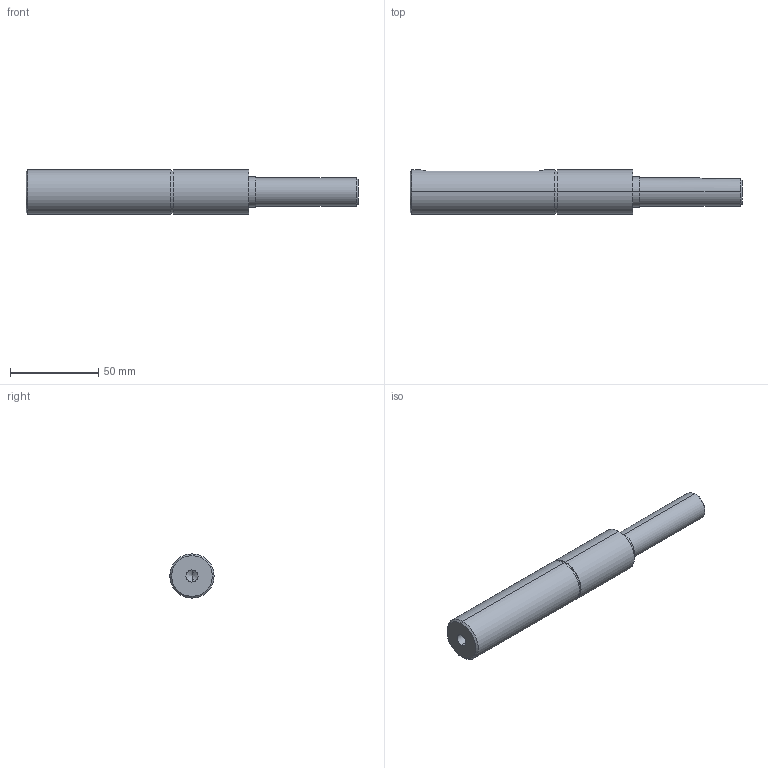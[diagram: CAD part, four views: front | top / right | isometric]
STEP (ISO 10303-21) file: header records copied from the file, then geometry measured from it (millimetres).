
FILE_DESCRIPTION (( 'STEP AP203' ), '1' );
FILE_NAME ('084.811.003.STEP', '2013-01-29T12:58:37', ( 'Alusic' ), ( 'Alusic' ), 'SwSTEP 2.0', 'SolidWorks 2011', '' );
FILE_SCHEMA (( 'CONFIG_CONTROL_DESIGN' ));
Length unit declared in the file: millimetre
Products named in the file (1): 084.811.003
Bounding box: 188 x 25 x 25 mm (x, y, z)
Volume: 71066 mm3; surface area: 15106.8 mm2
Topology: 1 solids, 1 shells, 34 faces, 75 edges, 47 vertices
Faces by surface type: cylinder 15, plane 12, cone 7
Entity records: 1100 total; most frequent: CARTESIAN_POINT 258, DIRECTION 171, ORIENTED_EDGE 146, EDGE_CURVE 73, AXIS2_PLACEMENT_3D 68, VERTEX_POINT 47, EDGE_LOOP 40, VECTOR 35
